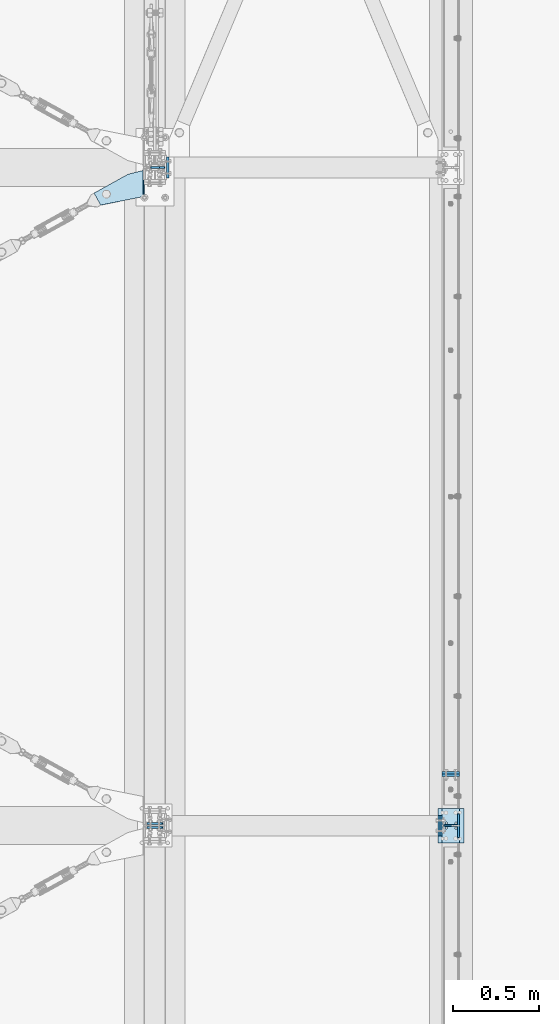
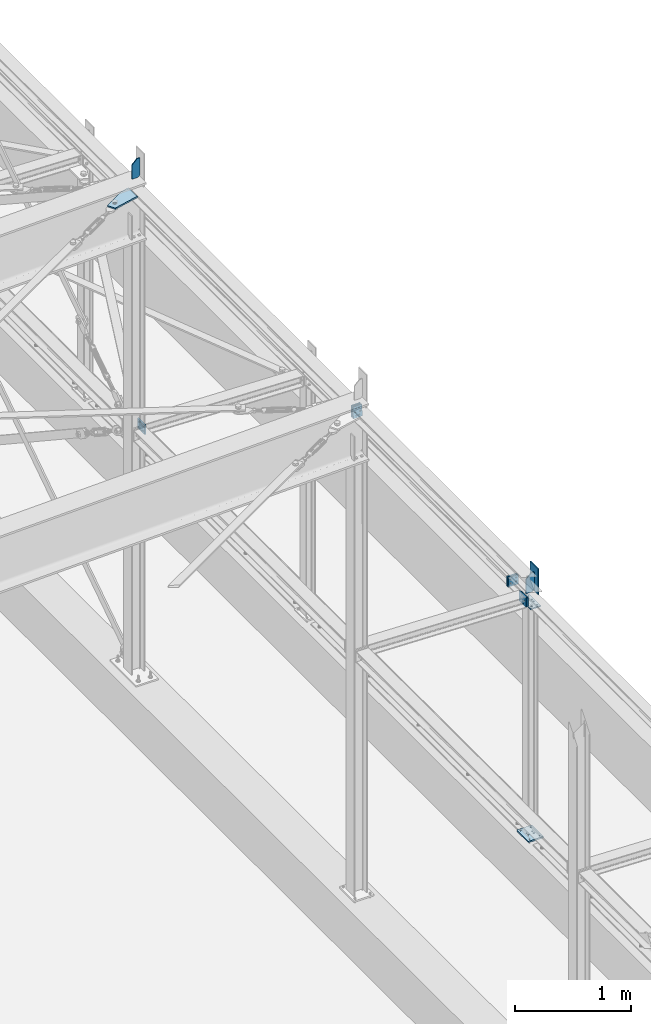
# One storey, part 45 of 476: 13 plates, 60 openings.
"""IFC2X3 building model written with IfcOpenShell, lengths in millimetres."""

import ifcopenshell
import ifcopenshell.guid

model = None  # the IFC model being written
_history = None  # IfcOwnerHistory: only IFC2X3 demands one
_inside = {}  # id of a spatial element -> (the spatial element, [elements in it])
_under = {}  # id of a project, library or spatial element -> (it, [spatial elements below it])
_declared = {}  # id of a project -> (the project, [libraries it declares])
_typed = {}  # id of a type object -> (the type object, [elements of that type])
_made_of = {}  # id of a material, layer set ... -> (it, [elements and type objects made of it])


def new_model(schema):
    """Start an empty IFC model of exactly this schema.

    Asked for "IFC4X3", IfcOpenShell would pick the latest addendum, in which some entities
    have other attributes; the version numbers below select the first issue.
    IFC2X3 requires an IfcOwnerHistory on every rooted entity: one is made here for all.
    """
    global model, _history
    if schema == "IFC4X3":
        model = ifcopenshell.file(schema_version=(4, 3, 0, 0))
    else:
        model = ifcopenshell.file(schema=schema)
    _inside.clear()
    _under.clear()
    _declared.clear()
    _typed.clear()
    _made_of.clear()
    _history = None
    if model.schema == "IFC2X3":
        org = make("IfcOrganization", Name="unknown")
        user = make(
            "IfcPersonAndOrganization",
            ThePerson=make("IfcPerson", FamilyName="unknown"),
            TheOrganization=org,
        )
        app = make(
            "IfcApplication",
            ApplicationDeveloper=org,
            Version="unknown",
            ApplicationFullName="unknown",
            ApplicationIdentifier="unknown",
        )
        _history = make(
            "IfcOwnerHistory",
            OwningUser=user,
            OwningApplication=app,
            ChangeAction="ADDED",
            CreationDate=0,
        )
    return model


def make(cls, **values):
    """One entity of the class cls with the attributes given. An attribute that is None is left unset."""
    return model.create_entity(
        cls, **{name: value for name, value in values.items() if value is not None}
    )


def entity(cls, *values):
    """Any entity or typed value of the class cls, its attributes in the order of the schema. None: left unset."""
    e = model.create_entity(cls)
    for i, value in enumerate(values):
        if value is not None:
            e[i] = value
    return e


def rooted(cls, **values):
    """An entity with a GlobalId (a new one), such as an element, a storey or a relation."""
    return make(cls, GlobalId=ifcopenshell.guid.new(), OwnerHistory=_history, **values)


def si_unit(unit_type, name, prefix=None):
    """IfcSIUnit, for example si_unit("LENGTHUNIT", "METRE", prefix="MILLI")."""
    return make("IfcSIUnit", UnitType=unit_type, Prefix=prefix, Name=name)


def converted_unit(unit_type, name, factor, base, dimensions=None, offset=None):
    """IfcConversionBasedUnit, such as the inch: factor (a typed value) times the base unit."""
    return make(
        "IfcConversionBasedUnit"
        if offset is None
        else "IfcConversionBasedUnitWithOffset",
        ConversionOffset=offset,
        Dimensions=None
        if dimensions is None
        else entity("IfcDimensionalExponents", *dimensions),
        UnitType=unit_type,
        Name=name,
        ConversionFactor=make(
            "IfcMeasureWithUnit", ValueComponent=factor, UnitComponent=base
        ),
    )


def assignment(units):
    """IfcUnitAssignment: the units of a project."""
    return None if units is None else make("IfcUnitAssignment", Units=units)


def point(xyz):
    """IfcCartesianPoint."""
    return None if xyz is None else make("IfcCartesianPoint", Coordinates=xyz)


def direction(xyz):
    """IfcDirection."""
    return None if xyz is None else make("IfcDirection", DirectionRatios=xyz)


def frame(location, z_axis=None, x_axis=None):
    """IfcAxis2Placement3D, a coordinate frame: its origin and axes. An axis left out is left unset."""
    return make(
        "IfcAxis2Placement3D",
        Location=point(location),
        Axis=direction(z_axis),
        RefDirection=direction(x_axis),
    )


def frame_2d(location, x_axis=None):
    """IfcAxis2Placement2D, a coordinate frame in the plane: its origin and x axis."""
    return make(
        "IfcAxis2Placement2D", Location=point(location), RefDirection=direction(x_axis)
    )


def origin():
    """The frame at (0, 0, 0) with its axes left unset."""
    return frame((0.0, 0.0, 0.0))


def origin_with_axes():
    """The frame at (0, 0, 0) with the z axis (0, 0, 1) and the x axis (1, 0, 0) written out."""
    return frame((0.0, 0.0, 0.0), z_axis=(0.0, 0.0, 1.0), x_axis=(1.0, 0.0, 0.0))


def origin_2d_with_axis():
    """The frame at (0, 0) in the plane with the x axis (1, 0) written out."""
    return frame_2d((0.0, 0.0), x_axis=(1.0, 0.0))


def place(relative_to, where):
    """IfcLocalPlacement: puts the frame where relative to a parent placement (None: the world)."""
    return make(
        "IfcLocalPlacement", PlacementRelTo=relative_to, RelativePlacement=where
    )


def context(
    kind, dimensions, precision=None, world=None, true_north=None, identifier=None
):
    """IfcGeometricRepresentationContext, for example the 3D "Model" context."""
    return make(
        "IfcGeometricRepresentationContext",
        ContextIdentifier=identifier,
        ContextType=kind,
        CoordinateSpaceDimension=dimensions,
        Precision=precision,
        WorldCoordinateSystem=world,
        TrueNorth=true_north,
    )


def project(units=None, contexts=None):
    """IfcProject with its units and contexts."""
    return rooted(
        "IfcProject",
        Name="project",
        RepresentationContexts=contexts,
        UnitsInContext=assignment(units),
    )


def spatial(cls, under=None, at=None, **own):
    """A site, building, storey or space (cls), placed at a placement, below another one or the project."""
    s = rooted(cls, ObjectPlacement=at, **own)
    if under is not None:
        _under.setdefault(under.id(), (under, []))[1].append(s)
    return s


def polyline(points):
    """IfcPolyline through the points."""
    return make("IfcPolyline", Points=[point(p) for p in points])


def circle_curve(where, radius):
    """IfcCircle in the frame where."""
    return make("IfcCircle", Position=where, Radius=radius)


def line_curve(start, along, magnitude):
    """IfcLine from a point along a vector."""
    return make(
        "IfcLine",
        Pnt=point(start),
        Dir=make("IfcVector", Orientation=direction(along), Magnitude=magnitude),
    )


def trimmed(basis, trim1, trim2, sense, master):
    """IfcTrimmedCurve: the piece of a basis curve between two trims."""
    return make(
        "IfcTrimmedCurve",
        BasisCurve=basis,
        Trim1=trim1,
        Trim2=trim2,
        SenseAgreement=sense,
        MasterRepresentation=master,
    )


def segment(curve, same_sense, transition):
    """IfcCompositeCurveSegment."""
    return make(
        "IfcCompositeCurveSegment",
        Transition=transition,
        SameSense=same_sense,
        ParentCurve=curve,
    )


def composite_curve(segments, self_intersect=None):
    """IfcCompositeCurve: segments joined end to end."""
    return make("IfcCompositeCurve", Segments=segments, SelfIntersect=self_intersect)


def profile(cls, at=None, kind="AREA", **sizes):
    """A parametric profile (cls). Its sizes go by their IFC names, for example OverallWidth=200.0."""
    return make(cls, ProfileType=kind, Position=at, **sizes)


def circle(**sizes):
    """IfcCircleProfileDef."""
    return profile("IfcCircleProfileDef", **sizes)


def outline(outer, holes=None, kind="AREA"):
    """IfcArbitraryClosedProfileDef: a profile drawn as a closed curve; with holes, ...WithVoids."""
    if holes is None:
        return make("IfcArbitraryClosedProfileDef", ProfileType=kind, OuterCurve=outer)
    return make(
        "IfcArbitraryProfileDefWithVoids",
        ProfileType=kind,
        OuterCurve=outer,
        InnerCurves=holes,
    )


def extrude(swept, where, along, depth):
    """IfcExtrudedAreaSolid: the profile swept, set in the frame where, extruded along a direction by depth."""
    return make(
        "IfcExtrudedAreaSolid",
        SweptArea=swept,
        Position=where,
        ExtrudedDirection=direction(along),
        Depth=depth,
    )


def shape(context_of_items, identifier, shape_type, items):
    """IfcShapeRepresentation: the items that make up one representation, for example the "Body"."""
    return make(
        "IfcShapeRepresentation",
        ContextOfItems=context_of_items,
        RepresentationIdentifier=identifier,
        RepresentationType=shape_type,
        Items=items,
    )


def material(Name=None, Category=None):
    """IfcMaterial."""
    return make("IfcMaterial", Name=Name, Category=Category)


def layer(
    of_material, thickness, ventilated=None, Name=None, Category=None, Priority=None
):
    """IfcMaterialLayer: one layer of a wall or slab, of a material (None: an air gap)."""
    return make(
        "IfcMaterialLayer",
        Material=of_material,
        LayerThickness=thickness,
        IsVentilated=ventilated,
        Name=Name,
        Category=Category,
        Priority=Priority,
    )


def layer_set(layers, Name=None):
    """IfcMaterialLayerSet."""
    return make("IfcMaterialLayerSet", MaterialLayers=layers, LayerSetName=Name)


def made_of(thing, what):
    """Note that an element or type object is made of a material, layer set ...; save() writes the relation."""
    if what is not None:
        _made_of.setdefault(what.id(), (what, []))[1].append(thing)
    return thing


def element(
    cls,
    number,
    at=None,
    inside=None,
    cuts=None,
    type_object=None,
    material=None,
    context=None,
    identifier="Body",
    shape_type=None,
    held_by="IfcProductDefinitionShape",
    body=None,
    shapes=None,
    **own,
):
    """One element of the class cls, such as IfcWall. Its Tag is "e" and its number.

    at: its placement. inside: the storey or other place that contains it. cuts: it is an
    opening in that element (IfcRelVoidsElement). A single representation is given by context,
    identifier, shape_type and body (its items); several are given by shapes. held_by: the class
    of the entity that holds the representations. save() writes the other relations.
    """
    e = rooted(cls, Tag="e%d" % number, ObjectPlacement=at, **own)
    if body is not None:
        shapes = [shape(context, identifier, shape_type, body)]
    if shapes is not None:
        e.Representation = make(held_by, Representations=shapes)
    if inside is not None:
        _inside.setdefault(inside.id(), (inside, []))[1].append(e)
    if cuts is not None:
        rooted(
            "IfcRelVoidsElement", RelatingBuildingElement=cuts, RelatedOpeningElement=e
        )
    if type_object is not None:
        _typed.setdefault(type_object.id(), (type_object, []))[1].append(e)
    return made_of(e, material)


def aggregate(whole, parts):
    """IfcRelAggregates: a whole, such as a stair, and the parts it consists of."""
    return rooted("IfcRelAggregates", RelatingObject=whole, RelatedObjects=parts)


def save(model, path):
    """Write the relations noted so far, then the file.

    IfcRelAggregates (storeys below a building ...), IfcRelContainedInSpatialStructure (elements
    in a storey), IfcRelDefinesByType, IfcRelAssociatesMaterial and IfcRelDeclares: one each for
    every whole, place, type object, material and project.
    """
    for whole, parts in _under.values():
        aggregate(whole, parts)
    for where, things in _inside.values():
        rooted(
            "IfcRelContainedInSpatialStructure",
            RelatedElements=things,
            RelatingStructure=where,
        )
    for kind, things in _typed.values():
        rooted("IfcRelDefinesByType", RelatedObjects=things, RelatingType=kind)
    for what, things in _made_of.values():
        rooted("IfcRelAssociatesMaterial", RelatedObjects=things, RelatingMaterial=what)
    for by, libraries in _declared.values():
        rooted("IfcRelDeclares", RelatingContext=by, RelatedDefinitions=libraries)
    model.write(path)


model = new_model("IFC2X3")

# Units and contexts
model_context = context("Model", 3, precision=1e-09, world=origin_with_axes())
ifc_project = project(units=[si_unit("LENGTHUNIT", "METRE", prefix="MILLI"), si_unit("AREAUNIT", "SQUARE_METRE"), si_unit("VOLUMEUNIT", "CUBIC_METRE"), converted_unit("PLANEANGLEUNIT", "DEGREE", entity("IfcPlaneAngleMeasure", 0.01745329), si_unit("PLANEANGLEUNIT", "RADIAN"), dimensions=[0, 0, 0, 0, 0, 0, 0])], contexts=[model_context])

# Site, building, storey
site_placement = place(None, origin_with_axes())
site = spatial("IfcSite", under=ifc_project, at=site_placement, Name="mKR Teilneubau & Sanierung BA1 - Ostfildern", CompositionType="ELEMENT")
building_placement = place(site_placement, origin_with_axes())
building = spatial("IfcBuilding", under=site, at=building_placement, Name="Struktur 1", CompositionType="ELEMENT")
storey_placement = place(building_placement, origin_with_axes())
storey = spatial("IfcBuildingStorey", under=building, at=storey_placement, Name="Default Storey", CompositionType="ELEMENT", Elevation=0.0)

# Plate, openings
ifc_material = material(Name="S235JR")
ifc_layer_1 = layer(ifc_material, 15.0)
ifc_layer_set_1 = layer_set([ifc_layer_1], Name="S235JR")
plate_1_placement = place(None, frame((21903.92386925, -9783.67287897, 5627.158981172), z_axis=(-0.030019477, 0.0, 0.999549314), x_axis=(-0.999549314, 0.0, -0.030019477)))
plate_1 = element("IfcPlate", 1, at=plate_1_placement, inside=storey, material=ifc_layer_set_1, Name="-", ObjectType="-", context=model_context, shape_type="SweptSolid", body=[
    extrude(outline(polyline([(0.0, 0.0), (55.140356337, 0.0), (291.381008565, 130.729269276), (252.646618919, 200.726934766), (1e-09, 150.0), (0.0, 0.0)])), origin_with_axes(), (0.0, 0.0, -1.0), 15.0),
])
opening_1_placement = place(plate_1_placement, frame((55.140356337, 0.0, 0.01), z_axis=(0.0, 0.0, 1.0), x_axis=(0.874966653, 0.484183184, 0.0)))
element("IfcOpeningElement", 2, at=opening_1_placement, cuts=plate_1, ObjectType="Opening", context=model_context, shape_type="SweptSolid", body=[
    extrude(outline(composite_curve([segment(trimmed(line_curve((0.0, 0.0), (1.0, 0.0), 45.191234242), [point((0.0, 0.0))], [point((45.191234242, 0.0))], True, "CARTESIAN"), True, "CONTINUOUS"), segment(trimmed(circle_curve(frame_2d((45.191234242, 175.0), x_axis=(-1.0, 0.0)), 175.0), [point((45.191234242, 0.0))], [point((-39.540822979, 21.880835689))], False, "CARTESIAN"), True, "CONTINUOUS"), segment(trimmed(line_curve((-39.540822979, 21.880835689), (0.874966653, -0.484183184), 45.191234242), [point((-39.540822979, 21.880835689))], [point((0.0, 0.0))], True, "CARTESIAN"), True, "CONTINUOUS")], self_intersect=False)), origin(), (0.0, 0.0, -1.0), 15.02),
])
opening_2_placement = place(plate_1_placement, frame((0.0, -0.001, 0.0), z_axis=(0.0, 1.0, 0.0), x_axis=(1.0, 0.0, 0.0)))
element("IfcOpeningElement", 3, at=opening_2_placement, cuts=plate_1, ObjectType="Opening", context=model_context, shape_type="SweptSolid", body=[
    extrude(outline(polyline([(0.0, 0.0), (8.0, 0.0), (0.0, 8.0), (0.0, 0.0)])), origin(), (0.0, 0.0, 1.0), 151.628257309),
])
opening_3_placement = place(plate_1_placement, frame((206.828395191, 129.656694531, -15.499404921), z_axis=(-2.2474e-05, 0.0, -1.0), x_axis=(-1.0, 0.0, 2.2474e-05)))
element("IfcOpeningElement", 4, at=opening_3_placement, cuts=plate_1, ObjectType="Opening", context=model_context, shape_type="SweptSolid", body=[
    extrude(circle(Radius=14.501, at=frame_2d((-12.687891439, 7.021140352), x_axis=(1.0, 0.0))), origin(), (0.0, 0.0, -1.0), 16.000000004),
])

ifc_layer_2 = layer(ifc_material, 10.0)
ifc_layer_set_2 = layer_set([ifc_layer_2], Name="S235JR")
plate_2_placement = place(None, frame((21942.108764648, -9760.67387897, 5888.306606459), z_axis=(0.0, 1.0, 0.0), x_axis=(1.0, 0.0, 0.0)))
plate_2 = element("IfcPlate", 5, at=plate_2_placement, inside=storey, material=ifc_layer_set_2, Name="-", ObjectType="-", context=model_context, shape_type="SweptSolid", body=[
    extrude(outline(polyline([(0.0, 0.0), (80.0, 0.0), (80.0, 197.595559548), (0.0, 200.0), (0.0, 0.0)])), origin_with_axes(), (0.0, 0.0, -1.0), 10.0),
])
opening_4_placement = place(plate_2_placement, frame((0.0, 0.0, 0.01), z_axis=(0.0, 0.0, 1.0), x_axis=(1.0, 0.0, 0.0)))
element("IfcOpeningElement", 6, at=opening_4_placement, cuts=plate_2, ObjectType="Opening", context=model_context, shape_type="SweptSolid", body=[
    extrude(outline(polyline([(0.0, 0.0), (50.0, 0.0), (0.0, 50.0), (0.0, 0.0)])), origin(), (0.0, 0.0, -1.0), 10.02),
])
opening_5_placement = place(plate_2_placement, frame((80.0, 197.595559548, 0.01), z_axis=(0.0, 0.0, 1.0), x_axis=(-0.999548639, 0.03004194, 0.0)))
element("IfcOpeningElement", 7, at=opening_5_placement, cuts=plate_2, ObjectType="Opening", context=model_context, shape_type="SweptSolid", body=[
    extrude(outline(polyline([(0.0, 0.0), (20.0, 0.0), (-0.600838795, 19.990972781), (0.0, 0.0)])), origin(), (0.0, 0.0, -1.0), 10.02),
])

# Plate
plate_3_placement = place(None, frame((23723.608764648, -13655.67387897, 2465.729061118), z_axis=(1.0, 0.0, 0.0), x_axis=(0.0, 1.0, 0.0)))
element("IfcPlate", 8, at=plate_3_placement, inside=storey, material=ifc_layer_set_2, Name="Coverplate", ObjectType="Coverplate", context=model_context, shape_type="SweptSolid", body=[
    extrude(outline(polyline([(0.0, 600.270938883), (140.0, 600.270938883), (140.0, 870.270938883), (0.0, 870.270938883), (0.0, 600.270938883)])), origin_with_axes(), (0.0, 0.0, 1.0), 10.0),
])

# Plate, openings
plate_4_placement = place(None, frame((23643.608764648, -13580.67387897, 3266.000000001), z_axis=(0.0, 1.0, 0.0), x_axis=(1.0, 0.0, 0.0)))
plate_4 = element("IfcPlate", 9, at=plate_4_placement, inside=storey, material=ifc_layer_set_2, Name="-", ObjectType="-", context=model_context, shape_type="SweptSolid", body=[
    extrude(outline(polyline([(0.0, 0.0), (80.0, 0.0), (80.0, 200.0), (0.0, 200.0), (0.0, 0.0)])), origin_with_axes(), (0.0, 0.0, -1.0), 10.0),
])
opening_6_placement = place(plate_4_placement, frame((0.0, 0.0, 0.01), z_axis=(0.0, 0.0, 1.0), x_axis=(1.0, 0.0, 0.0)))
element("IfcOpeningElement", 10, at=opening_6_placement, cuts=plate_4, ObjectType="Opening", context=model_context, shape_type="SweptSolid", body=[
    extrude(outline(polyline([(0.0, 0.0), (50.0, 0.0), (0.0, 50.0), (0.0, 0.0)])), origin(), (0.0, 0.0, -1.0), 10.02),
])
opening_7_placement = place(plate_4_placement, frame((80.0, 200.0, 0.01), z_axis=(0.0, 0.0, 1.0), x_axis=(-1.0, 0.0, 0.0)))
element("IfcOpeningElement", 11, at=opening_7_placement, cuts=plate_4, ObjectType="Opening", context=model_context, shape_type="SweptSolid", body=[
    extrude(outline(polyline([(0.0, 0.0), (20.0, 0.0), (0.0, 20.0), (0.0, 0.0)])), origin(), (0.0, 0.0, -1.0), 10.02),
])

ifc_layer_3 = layer(ifc_material, 12.0)
ifc_layer_set_3 = layer_set([ifc_layer_3], Name="S235JR")
plate_5_placement = place(None, frame((23683.608764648, -13585.67387897, 2958.0), z_axis=(0.0, 0.0, 1.0), x_axis=(-1.0, 0.0, 0.0)))
plate_5 = element("IfcPlate", 12, at=plate_5_placement, inside=storey, material=ifc_layer_set_3, Name="Endplate", ObjectType="Endplate", context=model_context, shape_type="SweptSolid", body=[
    extrude(outline(polyline([(-50.0, -100.0), (50.0, -100.0), (50.0, 100.0), (-50.0, 100.0), (-50.0, -100.0)])), origin_with_axes(), (0.0, 0.0, 1.0), 12.0),
])
opening_8_placement = place(plate_5_placement, frame((26.0, -14.5, 12.5), z_axis=(0.0, 0.0, -1.0), x_axis=(1.0, 0.0, 0.0)))
element("IfcOpeningElement", 13, at=opening_8_placement, cuts=plate_5, ObjectType="Opening", context=model_context, shape_type="SweptSolid", body=[
    extrude(circle(Radius=6.001, at=origin_2d_with_axis()), origin(), (0.0, 0.0, 1.0), 13.0),
])
opening_9_placement = place(plate_5_placement, frame((-30.0, -14.5, 12.5), z_axis=(0.0, 0.0, -1.0), x_axis=(1.0, 0.0, 0.0)))
element("IfcOpeningElement", 14, at=opening_9_placement, cuts=plate_5, ObjectType="Opening", context=model_context, shape_type="SweptSolid", body=[
    extrude(circle(Radius=6.001, at=origin_2d_with_axis()), origin(), (0.0, 0.0, 1.0), 13.0),
])
opening_10_placement = place(plate_5_placement, frame((-30.0, 14.5, 12.5), z_axis=(0.0, 0.0, -1.0), x_axis=(1.0, 0.0, 0.0)))
element("IfcOpeningElement", 15, at=opening_10_placement, cuts=plate_5, ObjectType="Opening", context=model_context, shape_type="SweptSolid", body=[
    extrude(circle(Radius=6.001, at=origin_2d_with_axis()), origin(), (0.0, 0.0, 1.0), 13.0),
])
opening_11_placement = place(plate_5_placement, frame((26.0, 14.5, 12.5), z_axis=(0.0, 0.0, -1.0), x_axis=(1.0, 0.0, 0.0)))
element("IfcOpeningElement", 16, at=opening_11_placement, cuts=plate_5, ObjectType="Opening", context=model_context, shape_type="SweptSolid", body=[
    extrude(circle(Radius=6.001, at=origin_2d_with_axis()), origin(), (0.0, 0.0, 1.0), 13.0),
])
opening_12_placement = place(plate_5_placement, frame((-50.0, 50.001, 0.0), z_axis=(0.0, -1.0, 0.0), x_axis=(1.0, 0.0, 0.0)))
element("IfcOpeningElement", 17, at=opening_12_placement, cuts=plate_5, ObjectType="Opening", context=model_context, shape_type="SweptSolid", body=[
    extrude(outline(polyline([(0.0, 0.0), (4.0, 0.0), (0.0, 4.0), (0.0, 0.0)])), origin(), (0.0, 0.0, 1.0), 100.022),
])
opening_13_placement = place(plate_5_placement, frame((-28.0, 67.999, -0.5), z_axis=(0.0, 0.0, -1.0), x_axis=(-1.0, 0.0, 0.0)))
element("IfcOpeningElement", 18, at=opening_13_placement, cuts=plate_5, ObjectType="Opening", context=model_context, shape_type="SweptSolid", body=[
    extrude(circle(Radius=7.001, at=frame_2d((0.0, 7.001), x_axis=(1.0, 0.0))), origin(), (0.0, 0.0, -1.0), 13.0),
])
opening_14_placement = place(plate_5_placement, frame((28.0, 67.999, -0.5), z_axis=(0.0, 0.0, -1.0), x_axis=(-1.0, 0.0, 0.0)))
element("IfcOpeningElement", 19, at=opening_14_placement, cuts=plate_5, ObjectType="Opening", context=model_context, shape_type="SweptSolid", body=[
    extrude(circle(Radius=7.001, at=frame_2d((0.0, 7.001), x_axis=(1.0, 0.0))), origin(), (0.0, 0.0, -1.0), 13.0),
])
opening_15_placement = place(plate_5_placement, frame((-28.0, -67.999, -0.5), z_axis=(0.0, 0.0, -1.0), x_axis=(-1.0, 0.0, 0.0)))
element("IfcOpeningElement", 20, at=opening_15_placement, cuts=plate_5, ObjectType="Opening", context=model_context, shape_type="SweptSolid", body=[
    extrude(circle(Radius=7.001, at=frame_2d((0.0, -7.001), x_axis=(1.0, 0.0))), origin(), (0.0, 0.0, -1.0), 13.0),
])
opening_16_placement = place(plate_5_placement, frame((28.0, -67.999, -0.5), z_axis=(0.0, 0.0, -1.0), x_axis=(-1.0, 0.0, 0.0)))
element("IfcOpeningElement", 21, at=opening_16_placement, cuts=plate_5, ObjectType="Opening", context=model_context, shape_type="SweptSolid", body=[
    extrude(circle(Radius=7.001, at=frame_2d((0.0, -7.001), x_axis=(1.0, 0.0))), origin(), (0.0, 0.0, -1.0), 13.0),
])

plate_6_placement = place(None, frame((22047.108764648, -9765.67387897, 3065.630813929), z_axis=(-1.0, 0.0, 0.0), x_axis=(0.0, 0.0, -1.0)))
plate_6 = element("IfcPlate", 22, at=plate_6_placement, inside=storey, material=ifc_layer_set_1, Name="Endplate", ObjectType="Endplate", context=model_context, shape_type="SweptSolid", body=[
    extrude(outline(polyline([(-52.0, -60.0), (52.0, -60.0), (52.0, 60.0), (-52.0, 60.0), (-52.0, -60.0)])), origin_with_axes(), (0.0, 0.0, 1.0), 15.0),
])
opening_17_placement = place(plate_6_placement, frame((-37.020699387, 14.5, 15.5), z_axis=(0.0, 0.0, -1.0), x_axis=(-1.0, 0.0, 0.0)))
element("IfcOpeningElement", 23, at=opening_17_placement, cuts=plate_6, ObjectType="Opening", context=model_context, shape_type="SweptSolid", body=[
    extrude(circle(Radius=6.001, at=origin_2d_with_axis()), origin(), (0.0, 0.0, 1.0), 16.0),
])
opening_18_placement = place(plate_6_placement, frame((37.020699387, 14.5, 15.5), z_axis=(0.0, 0.0, -1.0), x_axis=(-1.0, 0.0, 0.0)))
element("IfcOpeningElement", 24, at=opening_18_placement, cuts=plate_6, ObjectType="Opening", context=model_context, shape_type="SweptSolid", body=[
    extrude(circle(Radius=6.001, at=origin_2d_with_axis()), origin(), (0.0, 0.0, 1.0), 16.0),
])
opening_19_placement = place(plate_6_placement, frame((37.020699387, -14.5, 15.5), z_axis=(0.0, 0.0, -1.0), x_axis=(-1.0, 0.0, 0.0)))
element("IfcOpeningElement", 25, at=opening_19_placement, cuts=plate_6, ObjectType="Opening", context=model_context, shape_type="SweptSolid", body=[
    extrude(circle(Radius=6.001, at=origin_2d_with_axis()), origin(), (0.0, 0.0, 1.0), 16.0),
])
opening_20_placement = place(plate_6_placement, frame((-37.020699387, -14.5, 15.5), z_axis=(0.0, 0.0, -1.0), x_axis=(-1.0, 0.0, 0.0)))
element("IfcOpeningElement", 26, at=opening_20_placement, cuts=plate_6, ObjectType="Opening", context=model_context, shape_type="SweptSolid", body=[
    extrude(circle(Radius=6.001, at=origin_2d_with_axis()), origin(), (0.0, 0.0, 1.0), 16.0),
])
opening_21_placement = place(plate_6_placement, frame((-25.0, -35.0, 15.5), z_axis=(0.0, 0.0, -1.0), x_axis=(0.0, -1.0, 0.0)))
element("IfcOpeningElement", 27, at=opening_21_placement, cuts=plate_6, ObjectType="Opening", context=model_context, shape_type="SweptSolid", body=[
    extrude(circle(Radius=7.001, at=origin_2d_with_axis()), origin(), (0.0, 0.0, 1.0), 16.0),
])
opening_22_placement = place(plate_6_placement, frame((-25.0, 35.0, 15.5), z_axis=(0.0, 0.0, -1.0), x_axis=(0.0, 1.0, 0.0)))
element("IfcOpeningElement", 28, at=opening_22_placement, cuts=plate_6, ObjectType="Opening", context=model_context, shape_type="SweptSolid", body=[
    extrude(circle(Radius=7.001, at=origin_2d_with_axis()), origin(), (0.0, 0.0, 1.0), 16.0),
])
opening_23_placement = place(plate_6_placement, frame((25.0, 35.0, 15.5), z_axis=(0.0, 0.0, -1.0), x_axis=(0.0, 1.0, 0.0)))
element("IfcOpeningElement", 29, at=opening_23_placement, cuts=plate_6, ObjectType="Opening", context=model_context, shape_type="SweptSolid", body=[
    extrude(circle(Radius=7.001, at=origin_2d_with_axis()), origin(), (0.0, 0.0, 1.0), 16.0),
])
opening_24_placement = place(plate_6_placement, frame((25.0, -35.0, 15.5), z_axis=(0.0, 0.0, -1.0), x_axis=(0.0, -1.0, 0.0)))
element("IfcOpeningElement", 30, at=opening_24_placement, cuts=plate_6, ObjectType="Opening", context=model_context, shape_type="SweptSolid", body=[
    extrude(circle(Radius=7.001, at=origin_2d_with_axis()), origin(), (0.0, 0.0, 1.0), 16.0),
])

plate_7_placement = place(None, frame((22008.725869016, -13591.67387897, 5635.31111627), z_axis=(0.0, -1.0, 0.0), x_axis=(-0.999548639, 0.0, -0.030041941)))
plate_7 = element("IfcPlate", 31, at=plate_7_placement, inside=storey, material=ifc_layer_set_3, Name="Endplate", ObjectType="Endplate", context=model_context, shape_type="SweptSolid", body=[
    extrude(outline(polyline([(0.0, 0.0), (90.0, 0.0), (90.0, 124.0), (0.0, 124.0), (0.0, 0.0)])), origin_with_axes(), (0.0, 0.0, 1.0), 12.0),
])
opening_25_placement = place(plate_7_placement, frame((70.0, 62.0, -0.5), z_axis=(0.0, 0.0, 1.0), x_axis=(0.0, -1.0, 0.0)))
element("IfcOpeningElement", 32, at=opening_25_placement, cuts=plate_7, ObjectType="Opening", context=model_context, shape_type="SweptSolid", body=[
    extrude(circle(Radius=7.001, at=origin_2d_with_axis()), origin(), (0.0, 0.0, 1.0), 13.0),
])
opening_26_placement = place(plate_7_placement, frame((20.0, 62.0, -0.5), z_axis=(0.0, 0.0, 1.0), x_axis=(0.0, -1.0, 0.0)))
element("IfcOpeningElement", 33, at=opening_26_placement, cuts=plate_7, ObjectType="Opening", context=model_context, shape_type="SweptSolid", body=[
    extrude(circle(Radius=7.001, at=origin_2d_with_axis()), origin(), (0.0, 0.0, 1.0), 13.0),
])
opening_27_placement = place(plate_7_placement, frame((59.5, 99.0, -0.5), z_axis=(0.0, 0.0, 1.0), x_axis=(0.0, -1.0, 0.0)))
element("IfcOpeningElement", 34, at=opening_27_placement, cuts=plate_7, ObjectType="Opening", context=model_context, shape_type="SweptSolid", body=[
    extrude(circle(Radius=6.001, at=origin_2d_with_axis()), origin(), (0.0, 0.0, 1.0), 13.0),
])
opening_28_placement = place(plate_7_placement, frame((59.5, 25.0, -0.5), z_axis=(0.0, 0.0, 1.0), x_axis=(0.0, -1.0, 0.0)))
element("IfcOpeningElement", 35, at=opening_28_placement, cuts=plate_7, ObjectType="Opening", context=model_context, shape_type="SweptSolid", body=[
    extrude(circle(Radius=6.001, at=origin_2d_with_axis()), origin(), (0.0, 0.0, 1.0), 13.0),
])
opening_29_placement = place(plate_7_placement, frame((30.5, 25.0, -0.5), z_axis=(0.0, 0.0, 1.0), x_axis=(0.0, -1.0, 0.0)))
element("IfcOpeningElement", 36, at=opening_29_placement, cuts=plate_7, ObjectType="Opening", context=model_context, shape_type="SweptSolid", body=[
    extrude(circle(Radius=6.001, at=origin_2d_with_axis()), origin(), (0.0, 0.0, 1.0), 13.0),
])
opening_30_placement = place(plate_7_placement, frame((30.5, 99.0, -0.5), z_axis=(0.0, 0.0, 1.0), x_axis=(0.0, -1.0, 0.0)))
element("IfcOpeningElement", 37, at=opening_30_placement, cuts=plate_7, ObjectType="Opening", context=model_context, shape_type="SweptSolid", body=[
    extrude(circle(Radius=6.001, at=origin_2d_with_axis()), origin(), (0.0, 0.0, 1.0), 13.0),
])

plate_8_placement = place(None, frame((21918.766491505, -13579.67387897, 5632.607341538), z_axis=(0.0, 1.0, 0.0), x_axis=(0.999548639, 0.0, 0.030041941)))
plate_8 = element("IfcPlate", 38, at=plate_8_placement, inside=storey, material=ifc_layer_set_3, Name="Endplate", ObjectType="Endplate", context=model_context, shape_type="SweptSolid", body=[
    extrude(outline(polyline([(0.0, 0.0), (90.0, 0.0), (90.0, 124.0), (0.0, 124.0), (0.0, 0.0)])), origin_with_axes(), (0.0, 0.0, 1.0), 12.0),
])
opening_31_placement = place(plate_8_placement, frame((20.0, 62.0, 12.5), z_axis=(0.0, 0.0, -1.0), x_axis=(0.0, -1.0, 0.0)))
element("IfcOpeningElement", 39, at=opening_31_placement, cuts=plate_8, ObjectType="Opening", context=model_context, shape_type="SweptSolid", body=[
    extrude(circle(Radius=7.001, at=origin_2d_with_axis()), origin(), (0.0, 0.0, 1.0), 13.0),
])
opening_32_placement = place(plate_8_placement, frame((70.0, 62.0, 12.5), z_axis=(0.0, 0.0, -1.0), x_axis=(0.0, -1.0, 0.0)))
element("IfcOpeningElement", 40, at=opening_32_placement, cuts=plate_8, ObjectType="Opening", context=model_context, shape_type="SweptSolid", body=[
    extrude(circle(Radius=7.001, at=origin_2d_with_axis()), origin(), (0.0, 0.0, 1.0), 13.0),
])
opening_33_placement = place(plate_8_placement, frame((30.5, 99.0, -0.5), z_axis=(0.0, 0.0, 1.0), x_axis=(0.0, 1.0, 0.0)))
element("IfcOpeningElement", 41, at=opening_33_placement, cuts=plate_8, ObjectType="Opening", context=model_context, shape_type="SweptSolid", body=[
    extrude(circle(Radius=6.001, at=origin_2d_with_axis()), origin(), (0.0, 0.0, 1.0), 13.0),
])
opening_34_placement = place(plate_8_placement, frame((30.5, 25.0, -0.5), z_axis=(0.0, 0.0, 1.0), x_axis=(0.0, 1.0, 0.0)))
element("IfcOpeningElement", 42, at=opening_34_placement, cuts=plate_8, ObjectType="Opening", context=model_context, shape_type="SweptSolid", body=[
    extrude(circle(Radius=6.001, at=origin_2d_with_axis()), origin(), (0.0, 0.0, 1.0), 13.0),
])
opening_35_placement = place(plate_8_placement, frame((59.5, 25.0, -0.5), z_axis=(0.0, 0.0, 1.0), x_axis=(0.0, 1.0, 0.0)))
element("IfcOpeningElement", 43, at=opening_35_placement, cuts=plate_8, ObjectType="Opening", context=model_context, shape_type="SweptSolid", body=[
    extrude(circle(Radius=6.001, at=origin_2d_with_axis()), origin(), (0.0, 0.0, 1.0), 13.0),
])
opening_36_placement = place(plate_8_placement, frame((59.5, 99.0, -0.5), z_axis=(0.0, 0.0, 1.0), x_axis=(0.0, 1.0, 0.0)))
element("IfcOpeningElement", 44, at=opening_36_placement, cuts=plate_8, ObjectType="Opening", context=model_context, shape_type="SweptSolid", body=[
    extrude(circle(Radius=6.001, at=origin_2d_with_axis()), origin(), (0.0, 0.0, 1.0), 13.0),
])

plate_9_placement = place(None, frame((23760.608764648, -13485.67387897, 540.0), z_axis=(0.0, 0.0, -1.0), x_axis=(0.0, -1.0, 0.0)))
plate_9 = element("IfcPlate", 45, at=plate_9_placement, inside=storey, material=ifc_layer_set_1, Name="Baseplate", ObjectType="Baseplate", context=model_context, shape_type="SweptSolid", body=[
    extrude(outline(polyline([(0.0, 0.0), (200.0, 0.0), (200.0, 150.0), (0.0, 150.0), (0.0, 0.0)])), origin_with_axes(), (0.0, 0.0, 1.0), 15.0),
])
opening_37_placement = place(plate_9_placement, frame((85.5, 103.0, 15.5), z_axis=(0.0, 0.0, -1.0), x_axis=(0.0, -1.0, 0.0)))
element("IfcOpeningElement", 46, at=opening_37_placement, cuts=plate_9, ObjectType="Opening", context=model_context, shape_type="SweptSolid", body=[
    extrude(circle(Radius=6.001, at=origin_2d_with_axis()), origin(), (0.0, 0.0, 1.0), 16.0),
])
opening_38_placement = place(plate_9_placement, frame((85.5, 47.0, 15.5), z_axis=(0.0, 0.0, -1.0), x_axis=(0.0, -1.0, 0.0)))
element("IfcOpeningElement", 47, at=opening_38_placement, cuts=plate_9, ObjectType="Opening", context=model_context, shape_type="SweptSolid", body=[
    extrude(circle(Radius=6.001, at=origin_2d_with_axis()), origin(), (0.0, 0.0, 1.0), 16.0),
])
opening_39_placement = place(plate_9_placement, frame((114.5, 47.0, 15.5), z_axis=(0.0, 0.0, -1.0), x_axis=(0.0, -1.0, 0.0)))
element("IfcOpeningElement", 48, at=opening_39_placement, cuts=plate_9, ObjectType="Opening", context=model_context, shape_type="SweptSolid", body=[
    extrude(circle(Radius=6.001, at=origin_2d_with_axis()), origin(), (0.0, 0.0, 1.0), 16.0),
])
opening_40_placement = place(plate_9_placement, frame((114.5, 103.0, 15.5), z_axis=(0.0, 0.0, -1.0), x_axis=(0.0, -1.0, 0.0)))
element("IfcOpeningElement", 49, at=opening_40_placement, cuts=plate_9, ObjectType="Opening", context=model_context, shape_type="SweptSolid", body=[
    extrude(circle(Radius=6.001, at=origin_2d_with_axis()), origin(), (0.0, 0.0, 1.0), 16.0),
])
opening_41_placement = place(plate_9_placement, frame((100.0, 75.0, 15.5), z_axis=(0.0, 0.0, -1.0), x_axis=(1.0, 0.0, 0.0)))
element("IfcOpeningElement", 50, at=opening_41_placement, cuts=plate_9, ObjectType="Opening", context=model_context, shape_type="SweptSolid", body=[
    extrude(circle(Radius=6.001, at=frame_2d((75.0, 50.0), x_axis=(1.0, 0.0))), origin(), (0.0, 0.0, 1.0), 16.0),
])
opening_42_placement = place(plate_9_placement, frame((100.0, 75.0, 15.5), z_axis=(0.0, 0.0, -1.0), x_axis=(1.0, 0.0, 0.0)))
element("IfcOpeningElement", 51, at=opening_42_placement, cuts=plate_9, ObjectType="Opening", context=model_context, shape_type="SweptSolid", body=[
    extrude(circle(Radius=6.001, at=frame_2d((-75.0, 50.0), x_axis=(1.0, 0.0))), origin(), (0.0, 0.0, 1.0), 16.0),
])
opening_43_placement = place(plate_9_placement, frame((100.0, 75.0, 15.5), z_axis=(0.0, 0.0, -1.0), x_axis=(1.0, 0.0, 0.0)))
element("IfcOpeningElement", 52, at=opening_43_placement, cuts=plate_9, ObjectType="Opening", context=model_context, shape_type="SweptSolid", body=[
    extrude(circle(Radius=6.001, at=frame_2d((75.0, -50.0), x_axis=(1.0, 0.0))), origin(), (0.0, 0.0, 1.0), 16.0),
])
opening_44_placement = place(plate_9_placement, frame((100.0, 75.0, 15.5), z_axis=(0.0, 0.0, -1.0), x_axis=(1.0, 0.0, 0.0)))
element("IfcOpeningElement", 53, at=opening_44_placement, cuts=plate_9, ObjectType="Opening", context=model_context, shape_type="SweptSolid", body=[
    extrude(circle(Radius=6.001, at=frame_2d((-75.0, -50.0), x_axis=(1.0, 0.0))), origin(), (0.0, 0.0, 1.0), 16.0),
])

plate_10_placement = place(None, frame((23609.608764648, -13585.67387897, 3020.209302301), z_axis=(1.0, 0.0, 0.0), x_axis=(0.0, 0.0, -1.0)))
plate_10 = element("IfcPlate", 54, at=plate_10_placement, inside=storey, material=ifc_layer_set_3, Name="Endplate#1", ObjectType="Endplate#1", context=model_context, shape_type="SweptSolid", body=[
    extrude(outline(polyline([(-52.024078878, -60.0), (52.024078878, -60.0), (52.024078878, 60.0), (-52.024078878, 60.0), (-52.024078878, -60.0)])), origin_with_axes(), (0.0, 0.0, 1.0), 12.0),
])
opening_45_placement = place(plate_10_placement, frame((-37.020699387, -14.5, 12.5), z_axis=(0.0, 0.0, -1.0), x_axis=(1.0, 0.0, 0.0)))
element("IfcOpeningElement", 55, at=opening_45_placement, cuts=plate_10, ObjectType="Opening", context=model_context, shape_type="SweptSolid", body=[
    extrude(circle(Radius=6.001, at=origin_2d_with_axis()), origin(), (0.0, 0.0, 1.0), 13.0),
])
opening_46_placement = place(plate_10_placement, frame((37.020699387, -14.5, 12.5), z_axis=(0.0, 0.0, -1.0), x_axis=(1.0, 0.0, 0.0)))
element("IfcOpeningElement", 56, at=opening_46_placement, cuts=plate_10, ObjectType="Opening", context=model_context, shape_type="SweptSolid", body=[
    extrude(circle(Radius=6.001, at=origin_2d_with_axis()), origin(), (0.0, 0.0, 1.0), 13.0),
])
opening_47_placement = place(plate_10_placement, frame((37.020699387, 14.5, 12.5), z_axis=(0.0, 0.0, -1.0), x_axis=(1.0, 0.0, 0.0)))
element("IfcOpeningElement", 57, at=opening_47_placement, cuts=plate_10, ObjectType="Opening", context=model_context, shape_type="SweptSolid", body=[
    extrude(circle(Radius=6.001, at=origin_2d_with_axis()), origin(), (0.0, 0.0, 1.0), 13.0),
])
opening_48_placement = place(plate_10_placement, frame((-37.020699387, 14.5, 12.5), z_axis=(0.0, 0.0, -1.0), x_axis=(1.0, 0.0, 0.0)))
element("IfcOpeningElement", 58, at=opening_48_placement, cuts=plate_10, ObjectType="Opening", context=model_context, shape_type="SweptSolid", body=[
    extrude(circle(Radius=6.001, at=origin_2d_with_axis()), origin(), (0.0, 0.0, 1.0), 13.0),
])
opening_49_placement = place(plate_10_placement, frame((0.0, 30.0, 12.5), z_axis=(0.0, 0.0, -1.0), x_axis=(-1.0, 0.0, 0.0)))
element("IfcOpeningElement", 59, at=opening_49_placement, cuts=plate_10, ObjectType="Opening", context=model_context, shape_type="SweptSolid", body=[
    extrude(circle(Radius=7.001, at=origin_2d_with_axis()), origin(), (0.0, 0.0, 1.0), 13.0),
])
opening_50_placement = place(plate_10_placement, frame((0.0, -30.0, 12.5), z_axis=(0.0, 0.0, -1.0), x_axis=(0.0, -1.0, 0.0)))
element("IfcOpeningElement", 60, at=opening_50_placement, cuts=plate_10, ObjectType="Opening", context=model_context, shape_type="SweptSolid", body=[
    extrude(circle(Radius=7.001, at=origin_2d_with_axis()), origin(), (0.0, 0.0, 1.0), 13.0),
])

plate_11_placement = place(None, frame((23633.608764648, -13585.67387897, 3018.0), z_axis=(-1.0, 0.0, 0.0), x_axis=(0.0, -1.0, 0.0)))
plate_11 = element("IfcPlate", 61, at=plate_11_placement, inside=storey, material=ifc_layer_set_3, Name="T-plate", ObjectType="T-plate", context=model_context, shape_type="SweptSolid", body=[
    extrude(outline(polyline([(-60.0, -44.0), (60.0, -44.0), (60.0, 44.0), (-60.0, 44.0), (-60.0, -44.0)])), origin_with_axes(), (0.0, 0.0, 1.0), 12.0),
])
opening_51_placement = place(plate_11_placement, frame((30.0, 2.209302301, -0.5), z_axis=(0.0, 0.0, 1.0), x_axis=(1.0, 0.0, 0.0)))
element("IfcOpeningElement", 62, at=opening_51_placement, cuts=plate_11, ObjectType="Opening", context=model_context, shape_type="SweptSolid", body=[
    extrude(circle(Radius=7.001, at=origin_2d_with_axis()), origin(), (0.0, 0.0, 1.0), 13.0),
])
opening_52_placement = place(plate_11_placement, frame((-30.0, 2.209302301, -0.5), z_axis=(0.0, 0.0, 1.0), x_axis=(0.0, 1.0, 0.0)))
element("IfcOpeningElement", 63, at=opening_52_placement, cuts=plate_11, ObjectType="Opening", context=model_context, shape_type="SweptSolid", body=[
    extrude(circle(Radius=7.001, at=origin_2d_with_axis()), origin(), (0.0, 0.0, 1.0), 13.0),
])

plate_12_placement = place(None, frame((23683.608764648, -13285.67387897, 3012.0), z_axis=(0.0, 1.0, 0.0), x_axis=(0.0, 0.0, 1.0)))
plate_12 = element("IfcPlate", 64, at=plate_12_placement, inside=storey, material=ifc_layer_set_1, Name="Endplate#1", ObjectType="Endplate#1", context=model_context, shape_type="SweptSolid", body=[
    extrude(outline(polyline([(-50.0, -50.0), (50.0, -50.0), (50.0, 50.0), (-50.0, 50.0), (-50.0, -50.0)])), origin_with_axes(), (0.0, 0.0, 1.0), 15.0),
])
opening_53_placement = place(plate_12_placement, frame((6.0, -28.0, -0.5), z_axis=(0.0, 0.0, 1.0), x_axis=(0.0, -1.0, 0.0)))
element("IfcOpeningElement", 65, at=opening_53_placement, cuts=plate_12, ObjectType="Opening", context=model_context, shape_type="SweptSolid", body=[
    extrude(circle(Radius=7.001, at=frame_2d((0.0, 20.0), x_axis=(1.0, 0.0))), origin(), (0.0, 0.0, 1.0), 16.0),
])
opening_54_placement = place(plate_12_placement, frame((6.0, -28.0, -0.5), z_axis=(0.0, 0.0, 1.0), x_axis=(0.0, -1.0, 0.0)))
element("IfcOpeningElement", 66, at=opening_54_placement, cuts=plate_12, ObjectType="Opening", context=model_context, shape_type="SweptSolid", body=[
    extrude(circle(Radius=7.001, at=frame_2d((0.0, -20.0), x_axis=(1.0, 0.0))), origin(), (0.0, 0.0, 1.0), 16.0),
])
opening_55_placement = place(plate_12_placement, frame((6.0, 28.0, -0.5), z_axis=(0.0, 0.0, 1.0), x_axis=(0.0, -1.0, 0.0)))
element("IfcOpeningElement", 67, at=opening_55_placement, cuts=plate_12, ObjectType="Opening", context=model_context, shape_type="SweptSolid", body=[
    extrude(circle(Radius=7.001, at=frame_2d((0.0, 20.0), x_axis=(1.0, 0.0))), origin(), (0.0, 0.0, 1.0), 16.0),
])
opening_56_placement = place(plate_12_placement, frame((6.0, 28.0, -0.5), z_axis=(0.0, 0.0, 1.0), x_axis=(0.0, -1.0, 0.0)))
element("IfcOpeningElement", 68, at=opening_56_placement, cuts=plate_12, ObjectType="Opening", context=model_context, shape_type="SweptSolid", body=[
    extrude(circle(Radius=7.001, at=frame_2d((0.0, -20.0), x_axis=(1.0, 0.0))), origin(), (0.0, 0.0, 1.0), 16.0),
])

plate_13_placement = place(None, frame((23683.608764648, -13300.67387897, 3012.0), z_axis=(0.0, 1.0, 0.0), x_axis=(0.0, 0.0, 1.0)))
plate_13 = element("IfcPlate", 69, at=plate_13_placement, inside=storey, material=ifc_layer_set_1, Name="Endplate#2", ObjectType="Endplate#2", context=model_context, shape_type="SweptSolid", body=[
    extrude(outline(polyline([(-50.0, -50.0), (50.0, -50.0), (50.0, 50.0), (-50.0, 50.0), (-50.0, -50.0)])), origin_with_axes(), (0.0, 0.0, 1.0), 15.0),
])
opening_57_placement = place(plate_13_placement, frame((6.0, -28.0, -0.5), z_axis=(0.0, 0.0, 1.0), x_axis=(0.0, -1.0, 0.0)))
element("IfcOpeningElement", 70, at=opening_57_placement, cuts=plate_13, ObjectType="Opening", context=model_context, shape_type="SweptSolid", body=[
    extrude(circle(Radius=7.001, at=frame_2d((0.0, 20.0), x_axis=(1.0, 0.0))), origin(), (0.0, 0.0, 1.0), 16.0),
])
opening_58_placement = place(plate_13_placement, frame((6.0, -28.0, -0.5), z_axis=(0.0, 0.0, 1.0), x_axis=(0.0, -1.0, 0.0)))
element("IfcOpeningElement", 71, at=opening_58_placement, cuts=plate_13, ObjectType="Opening", context=model_context, shape_type="SweptSolid", body=[
    extrude(circle(Radius=7.001, at=frame_2d((0.0, -20.0), x_axis=(1.0, 0.0))), origin(), (0.0, 0.0, 1.0), 16.0),
])
opening_59_placement = place(plate_13_placement, frame((6.0, 28.0, -0.5), z_axis=(0.0, 0.0, 1.0), x_axis=(0.0, -1.0, 0.0)))
element("IfcOpeningElement", 72, at=opening_59_placement, cuts=plate_13, ObjectType="Opening", context=model_context, shape_type="SweptSolid", body=[
    extrude(circle(Radius=7.001, at=frame_2d((0.0, 20.0), x_axis=(1.0, 0.0))), origin(), (0.0, 0.0, 1.0), 16.0),
])
opening_60_placement = place(plate_13_placement, frame((6.0, 28.0, -0.5), z_axis=(0.0, 0.0, 1.0), x_axis=(0.0, -1.0, 0.0)))
element("IfcOpeningElement", 73, at=opening_60_placement, cuts=plate_13, ObjectType="Opening", context=model_context, shape_type="SweptSolid", body=[
    extrude(circle(Radius=7.001, at=frame_2d((0.0, -20.0), x_axis=(1.0, 0.0))), origin(), (0.0, 0.0, 1.0), 16.0),
])

save(model, "model.ifc")
